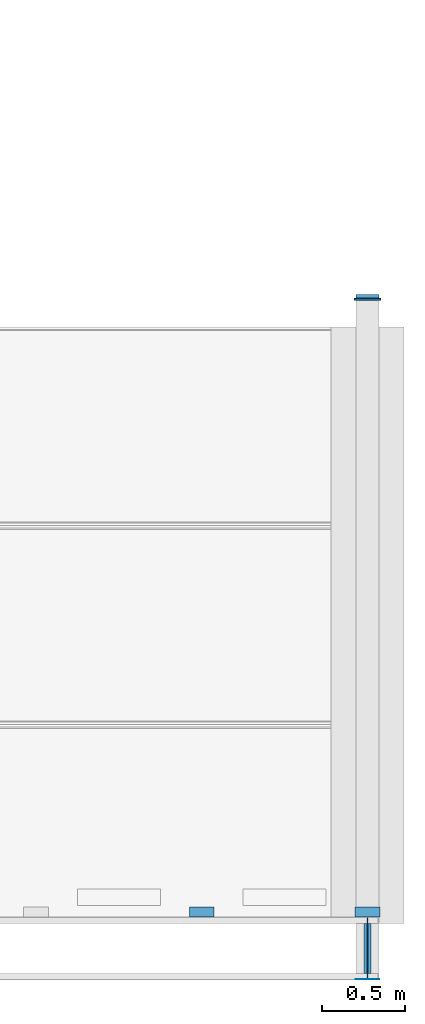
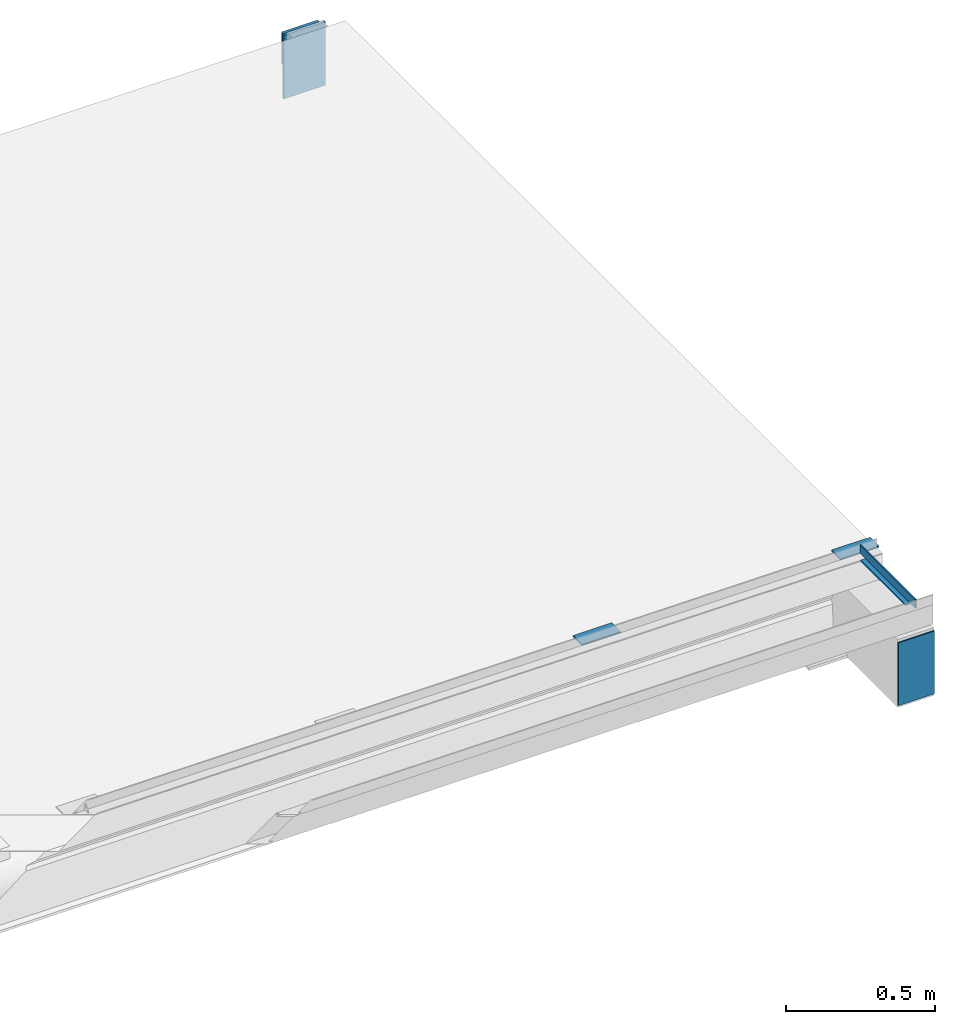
# One storey, part 8 of 13: 6 beams.
"""IFC2X3 building model written with IfcOpenShell, lengths in millimetres."""

from ifc_helpers import new_model, entity, si_unit, converted_unit, derived_unit, direction, frame, origin_with_axes, place, context, subcontext, project, spatial, faceted_brep, material, type_object, element, save


model = new_model("IFC2X3")

# Units and contexts
model_context = context("Model", 3, precision=0.01, world=frame((0.0, 4.29681676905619e-09, 0.0)), true_north=direction((4.01073788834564e-13, 1.0)))
plan_context = context("Plan", 3, precision=0.01, world=frame((0.0, 4.29681676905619e-09, 0.0)), true_north=direction((4.01073788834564e-13, 1.0)))
body_context = subcontext(model_context, "Body", "Model", "MODEL_VIEW")
ifc_project = project(units=[converted_unit("PLANEANGLEUNIT", "DEGREE", entity("IfcPositiveLengthMeasure", 0.0174532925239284), si_unit("PLANEANGLEUNIT", "RADIAN"), dimensions=[0, 0, 0, 0, 0, 0, 0]), si_unit("AREAUNIT", "SQUARE_METRE"), si_unit("LENGTHUNIT", "METRE", prefix="MILLI"), si_unit("MASSUNIT", "GRAM", prefix="KILO"), si_unit("POWERUNIT", "WATT"), si_unit("PRESSUREUNIT", "PASCAL", prefix="KILO"), si_unit("FORCEUNIT", "NEWTON", prefix="KILO"), si_unit("ELECTRICVOLTAGEUNIT", "VOLT"), si_unit("ELECTRICCURRENTUNIT", "AMPERE"), si_unit("THERMODYNAMICTEMPERATUREUNIT", "DEGREE_CELSIUS"), si_unit("TIMEUNIT", "SECOND"), si_unit("VOLUMEUNIT", "CUBIC_METRE"), derived_unit("LINEARVELOCITYUNIT", [(si_unit("LENGTHUNIT", "METRE"), 1), (si_unit("TIMEUNIT", "SECOND"), -1)]), derived_unit("VOLUMETRICFLOWRATEUNIT", [(si_unit("VOLUMEUNIT", "CUBIC_METRE"), 1), (si_unit("TIMEUNIT", "SECOND"), -1)]), derived_unit("THERMALTRANSMITTANCEUNIT", [(si_unit("POWERUNIT", "WATT"), 1), (si_unit("THERMODYNAMICTEMPERATUREUNIT", "KELVIN"), -1), (si_unit("AREAUNIT", "SQUARE_METRE"), -1)]), derived_unit("SOUNDPRESSUREUNIT", [(si_unit("PRESSUREUNIT", "PASCAL"), 1)])], contexts=[model_context, plan_context])

# Site, building, storey
site_placement = place(None, frame((0.0, -4.29681676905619e-09, 0.0), z_axis=(0.0, 0.0, 1.0), x_axis=(1.0, 0.0, 0.0)))
site = spatial("IfcSite", under=ifc_project, at=site_placement, Name="Gardermoen", CompositionType="ELEMENT")
building_placement = place(site_placement, frame((0.0, 4.29681676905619e-09, 0.0), z_axis=(0.0, 0.0, 1.0), x_axis=(1.0, 0.0, 0.0)))
building = spatial("IfcBuilding", under=site, at=building_placement, Name="TG", CompositionType="ELEMENT")
storey_placement = place(building_placement, origin_with_axes())
storey = spatial("IfcBuildingStorey", under=building, at=storey_placement, Name="G", CompositionType="ELEMENT", Elevation=0.0)

# Beams
ifc_material_1 = material(Name="STEEL/S355J0")
beam_type_1 = type_object("IfcBeamType", Name="PL5*140", PredefinedType="NOTDEFINED")
beam_1_placement = place(storey_placement, frame((349000.000872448, 458182.5, 213293.0), z_axis=(1.0, 0.0, 0.0), x_axis=(0.0, 0.0, 1.0)))
element("IfcBeam", 1, at=beam_1_placement, inside=storey, type_object=beam_type_1, material=ifc_material_1, Name="STÅLBJELKE", ObjectType="PL5*140", context=body_context, shape_type="Brep", body=[
    faceted_brep([(0.0, 2.5, -70.0), (0.0, 2.5, 70.0), (257.0, 2.5, 70.0), (257.0, 2.5, -70.0), (0.0, -2.5, 70.0), (257.0, -2.5, 70.0), (0.0, -2.5, -70.0), (257.0, -2.5, -70.0)], [[[0, 1, 2, 3]], [[1, 4, 5, 2]], [[4, 6, 7, 5]], [[6, 0, 3, 7]], [[5, 7, 3, 2]], [[6, 4, 1, 0]]]),
])
beam_type_2 = type_object("IfcBeamType", Name="PL10*160", PredefinedType="NOTDEFINED")
beam_2_placement = place(storey_placement, frame((349000.000002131, 462285.999973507, 213291.5), z_axis=(-1.0, 0.0, 0.0), x_axis=(0.0, 0.0, 1.0)))
element("IfcBeam", 2, at=beam_2_placement, inside=storey, type_object=beam_type_2, material=ifc_material_1, Name="STÅLBJELKE", ObjectType="PL10*160", context=body_context, shape_type="Brep", body=[
    faceted_brep([(0.0, 5.0, -80.0), (0.0, 5.0, 80.0), (260.0, 5.0, 80.0), (260.0, 5.0, -80.0), (0.0, -5.0, 80.0), (260.0, -5.0, 80.0), (0.0, -5.0, -80.0), (260.0, -5.0, -80.0)], [[[0, 1, 2, 3]], [[1, 4, 5, 2]], [[4, 6, 7, 5]], [[6, 0, 3, 7]], [[5, 7, 3, 2]], [[6, 4, 1, 0]]]),
])
ifc_material_2 = material(Name="STEEL/S355")
beam_type_3 = type_object("IfcBeamType", Name="25*140", PredefinedType="NOTDEFINED")
beam_3_placement = place(storey_placement, frame((348999.999125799, 462303.499965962, 213541.000007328), z_axis=(0.0, -1.0, 0.0), x_axis=(0.0, 0.0, -1.0)))
element("IfcBeam", 3, at=beam_3_placement, inside=storey, type_object=beam_type_3, material=ifc_material_2, Name="STÅLBJELKE", ObjectType="25*140", context=body_context, shape_type="Brep", body=[
    faceted_brep([(5.82076609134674e-10, 69.9999999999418, -12.5000000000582), (6.98491930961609e-10, 69.9999999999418, 12.5), (129.999999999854, 69.9999999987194, 12.5000000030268), (129.999999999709, 69.9999999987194, -12.4999999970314), (-6.11180439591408e-10, -70.0000000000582, 12.5), (129.999999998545, -70.0000000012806, 12.5000000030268), (-7.27595761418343e-10, -70.0000000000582, -12.5000000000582), (129.999999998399, -70.0000000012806, -12.4999999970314)], [[[0, 1, 2, 3]], [[1, 4, 5, 2]], [[4, 6, 7, 5]], [[6, 0, 3, 7]], [[5, 7, 3, 2]], [[6, 4, 1, 0]]]),
])
beam_type_4 = type_object("IfcBeamType", Name="T40", PredefinedType="NOTDEFINED")
beam_4_placement = place(storey_placement, frame((349000.0, 458184.0, 213680.131614), z_axis=(0.0, 0.0, -1.0), x_axis=(0.0, 1.0, 0.0)))
element("IfcBeam", 4, at=beam_4_placement, inside=storey, type_object=beam_type_4, material=ifc_material_2, Name="STÅLBJELKE", ObjectType="T40", context=body_context, shape_type="Brep", body=[
    faceted_brep([(35.9999576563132, -2.5, 15.0), (35.9999798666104, 2.5, 15.0), (0.0, 2.5, 15.0), (0.0, -2.5, 15.0), (35.9999602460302, -19.9999999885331, 20.0006316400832), (35.9997825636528, 20.0, 20.0), (35.9998799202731, 20.0, 15.0), (36.0000576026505, -20.0, 15.0), (0.0, -2.5, -20.0), (0.0, 2.5, -20.0), (372.0, 2.5, -20.0), (372.0, -2.5, -20.0), (372.0, 2.5, 15.0), (372.000315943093, -2.49999997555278, 14.9992803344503), (336.000315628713, 2.5, 15.0), (336.000293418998, -2.5, 15.0), (336.000395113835, -20.0, 20.0), (336.000393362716, -20.0, 15.0), (336.000215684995, 20.0, 15.0), (336.000217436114, 20.0, 20.0)], [[[0, 1, 2, 3]], [[4, 5, 6, 1, 0, 7]], [[8, 9, 10, 11]], [[11, 10, 12, 13]], [[13, 12, 14, 15]], [[16, 17, 15, 14, 18, 19]], [[17, 16, 4, 7]], [[15, 17, 7, 0]], [[8, 11, 13, 15, 0, 3]], [[9, 8, 3, 2]], [[14, 12, 10, 9, 2, 1]], [[18, 14, 1, 6]], [[19, 18, 6, 5]], [[16, 19, 5, 4]]]),
])
beam_type_5 = type_object("IfcBeamType", Name="60*5", PredefinedType="NOTDEFINED")
for number, where, z_axis, x_axis in (
    (5, (348925.002562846, 458589.999997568, 213662.631638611), (0.0, -1.0, 0.0), (1.0, 0.0, 0.0)),
    (6, (347925.002562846, 458589.999997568, 213662.631638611), (0.0, -1.0, 0.0), (1.0, 0.0, 0.0)),
):
    element("IfcBeam", number, at=place(storey_placement, frame(where, z_axis=z_axis, x_axis=x_axis)), inside=storey, type_object=beam_type_5, material=ifc_material_2, Name="STÅLBJELKE", ObjectType="60*5", context=body_context, shape_type="Brep", body=[
        faceted_brep([(0.0, 2.5, -30.0), (0.0, 2.5, 30.0), (150.0, 2.5, 30.0), (150.0, 2.5, -30.0), (0.0, -2.5, 30.0), (150.0, -2.5, 30.0), (0.0, -2.5, -30.0), (150.0, -2.5, -30.0)], [[[0, 1, 2, 3]], [[1, 4, 5, 2]], [[4, 6, 7, 5]], [[6, 0, 3, 7]], [[5, 7, 3, 2]], [[6, 4, 1, 0]]]),
    ])

save(model, "model.ifc")
